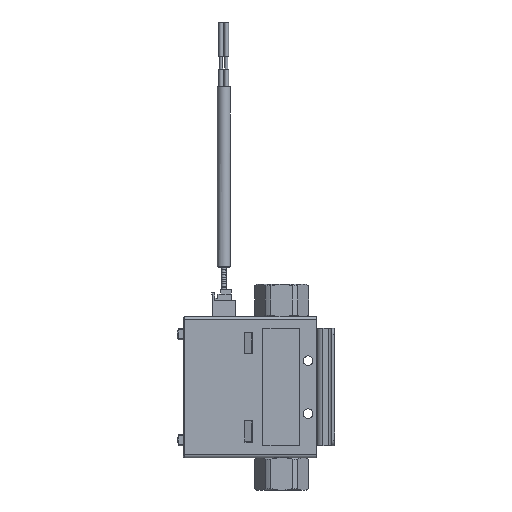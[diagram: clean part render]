
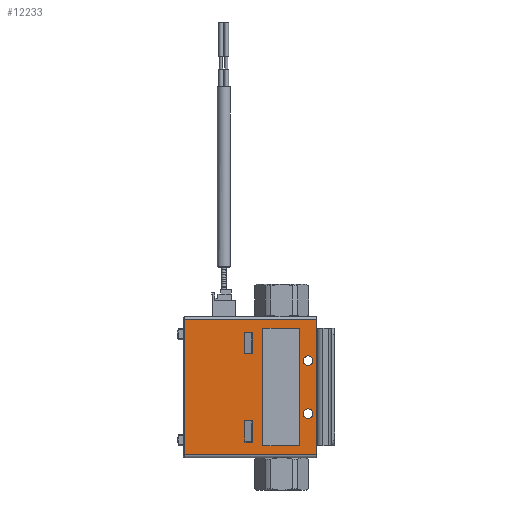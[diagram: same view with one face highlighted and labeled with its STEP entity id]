
A CAD part, left-side view. The second image highlights one B-rep face of the part: STEP entity #12233.
In plain terms, the highlighted planar face has unit normal (-1, 0, 0).
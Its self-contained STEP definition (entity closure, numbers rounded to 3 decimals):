
#682=LINE('',#65479,#4706);
#683=LINE('',#65482,#4707);
#684=LINE('',#65484,#4708);
#685=LINE('',#65486,#4709);
#686=LINE('',#65487,#4710);
#687=LINE('',#65490,#4711);
#688=LINE('',#65492,#4712);
#689=LINE('',#65494,#4713);
#690=LINE('',#65499,#4714);
#691=LINE('',#65502,#4715);
#692=LINE('',#65504,#4716);
#693=LINE('',#65506,#4717);
#694=LINE('',#65507,#4718);
#695=LINE('',#65510,#4719);
#696=LINE('',#65512,#4720);
#697=LINE('',#65514,#4721);
#4706=VECTOR('',#51932,1.);
#4707=VECTOR('',#51933,1.);
#4708=VECTOR('',#51934,1.);
#4709=VECTOR('',#51935,1.);
#4710=VECTOR('',#51936,1.);
#4711=VECTOR('',#51937,1.);
#4712=VECTOR('',#51938,1.);
#4713=VECTOR('',#51939,1.);
#4714=VECTOR('',#51944,1.);
#4715=VECTOR('',#51945,1.);
#4716=VECTOR('',#51946,1.);
#4717=VECTOR('',#51947,1.);
#4718=VECTOR('',#51948,1.);
#4719=VECTOR('',#51949,1.);
#4720=VECTOR('',#51950,1.);
#4721=VECTOR('',#51951,1.);
#10761=PLANE('',#46438);
#12233=ADVANCED_FACE('',(#15273,#15274,#15275,#15276,#15277,#15278),#10761,
 .T.);
#15273=FACE_BOUND('',#17185,.T.);
#15274=FACE_BOUND('',#17186,.T.);
#15275=FACE_BOUND('',#17187,.T.);
#15276=FACE_BOUND('',#17188,.T.);
#15277=FACE_BOUND('',#17189,.T.);
#15278=FACE_BOUND('',#17190,.T.);
#17185=EDGE_LOOP('',(#21799,#21800,#21801,#21802));
#17186=EDGE_LOOP('',(#21803,#21804,#21805,#21806));
#17187=EDGE_LOOP('',(#21807));
#17188=EDGE_LOOP('',(#21808));
#17189=EDGE_LOOP('',(#21809,#21810,#21811,#21812));
#17190=EDGE_LOOP('',(#21813,#21814,#21815,#21816));
#21799=ORIENTED_EDGE('',*,*,#38342,.F.);
#21800=ORIENTED_EDGE('',*,*,#38343,.F.);
#21801=ORIENTED_EDGE('',*,*,#38344,.F.);
#21802=ORIENTED_EDGE('',*,*,#38345,.F.);
#21803=ORIENTED_EDGE('',*,*,#38346,.T.);
#21804=ORIENTED_EDGE('',*,*,#38347,.T.);
#21805=ORIENTED_EDGE('',*,*,#38348,.T.);
#21806=ORIENTED_EDGE('',*,*,#38349,.T.);
#21807=ORIENTED_EDGE('',*,*,#38350,.T.);
#21808=ORIENTED_EDGE('',*,*,#38351,.T.);
#21809=ORIENTED_EDGE('',*,*,#38352,.T.);
#21810=ORIENTED_EDGE('',*,*,#38353,.T.);
#21811=ORIENTED_EDGE('',*,*,#38354,.T.);
#21812=ORIENTED_EDGE('',*,*,#38355,.F.);
#21813=ORIENTED_EDGE('',*,*,#38356,.T.);
#21814=ORIENTED_EDGE('',*,*,#38357,.F.);
#21815=ORIENTED_EDGE('',*,*,#38358,.F.);
#21816=ORIENTED_EDGE('',*,*,#38359,.T.);
#33765=VERTEX_POINT('',#65480);
#33766=VERTEX_POINT('',#65481);
#33767=VERTEX_POINT('',#65483);
#33768=VERTEX_POINT('',#65485);
#33769=VERTEX_POINT('',#65488);
#33770=VERTEX_POINT('',#65489);
#33771=VERTEX_POINT('',#65491);
#33772=VERTEX_POINT('',#65493);
#33773=VERTEX_POINT('',#65496);
#33774=VERTEX_POINT('',#65498);
#33775=VERTEX_POINT('',#65500);
#33776=VERTEX_POINT('',#65501);
#33777=VERTEX_POINT('',#65503);
#33778=VERTEX_POINT('',#65505);
#33779=VERTEX_POINT('',#65508);
#33780=VERTEX_POINT('',#65509);
#33781=VERTEX_POINT('',#65511);
#33782=VERTEX_POINT('',#65513);
#38342=EDGE_CURVE('',#33765,#33766,#682,.T.);
#38343=EDGE_CURVE('',#33767,#33765,#683,.T.);
#38344=EDGE_CURVE('',#33768,#33767,#684,.T.);
#38345=EDGE_CURVE('',#33766,#33768,#685,.T.);
#38346=EDGE_CURVE('',#33769,#33770,#686,.T.);
#38347=EDGE_CURVE('',#33770,#33771,#687,.T.);
#38348=EDGE_CURVE('',#33771,#33772,#688,.T.);
#38349=EDGE_CURVE('',#33772,#33769,#689,.T.);
#38350=EDGE_CURVE('',#33773,#33773,#44150,.T.);
#38351=EDGE_CURVE('',#33774,#33774,#44151,.T.);
#38352=EDGE_CURVE('',#33775,#33776,#690,.T.);
#38353=EDGE_CURVE('',#33776,#33777,#691,.T.);
#38354=EDGE_CURVE('',#33777,#33778,#692,.T.);
#38355=EDGE_CURVE('',#33775,#33778,#693,.T.);
#38356=EDGE_CURVE('',#33779,#33780,#694,.T.);
#38357=EDGE_CURVE('',#33781,#33780,#695,.T.);
#38358=EDGE_CURVE('',#33782,#33781,#696,.T.);
#38359=EDGE_CURVE('',#33782,#33779,#697,.T.);
#44150=CIRCLE('',#46436,1.65);
#44151=CIRCLE('',#46437,1.65);
#46436=AXIS2_PLACEMENT_3D('',#65495,#51940,#51941);
#46437=AXIS2_PLACEMENT_3D('',#65497,#51942,#51943);
#46438=AXIS2_PLACEMENT_3D('',#65515,#51952,#51953);
#51932=DIRECTION('',(0.,-1.,0.));
#51933=DIRECTION('',(0.,0.,-1.));
#51934=DIRECTION('',(0.,1.,0.));
#51935=DIRECTION('',(0.,0.,1.));
#51936=DIRECTION('',(0.,1.,0.));
#51937=DIRECTION('',(0.,0.,-1.));
#51938=DIRECTION('',(0.,-1.,0.));
#51939=DIRECTION('',(0.,0.,1.));
#51940=DIRECTION('',(1.,0.,0.));
#51941=DIRECTION('',(0.,0.,-1.));
#51942=DIRECTION('',(1.,0.,0.));
#51943=DIRECTION('',(0.,0.,-1.));
#51944=DIRECTION('',(0.,0.,1.));
#51945=DIRECTION('',(0.,-1.,0.));
#51946=DIRECTION('',(0.,0.,-1.));
#51947=DIRECTION('',(0.,-1.,0.));
#51948=DIRECTION('',(0.,1.,0.));
#51949=DIRECTION('',(0.,0.,-1.));
#51950=DIRECTION('',(0.,1.,0.));
#51951=DIRECTION('',(0.,0.,-1.));
#51952=DIRECTION('',(-1.,0.,0.));
#51953=DIRECTION('',(0.,0.,1.));
#65479=CARTESIAN_POINT('',(17.5,7.919,-57.5));
#65480=CARTESIAN_POINT('',(17.5,7.419,-57.5));
#65481=CARTESIAN_POINT('',(17.5,-5.081,-57.5));
#65482=CARTESIAN_POINT('',(17.5,7.419,0.));
#65483=CARTESIAN_POINT('',(17.5,7.419,-17.5));
#65484=CARTESIAN_POINT('',(17.5,-12.081,-17.5));
#65485=CARTESIAN_POINT('',(17.5,-5.081,-17.5));
#65486=CARTESIAN_POINT('',(17.5,-5.081,-77.5));
#65487=CARTESIAN_POINT('',(17.5,14.419,-14.5));
#65488=CARTESIAN_POINT('',(17.5,-11.,-14.5));
#65489=CARTESIAN_POINT('',(17.5,33.99,-14.5));
#65490=CARTESIAN_POINT('',(17.5,33.99,-60.5));
#65491=CARTESIAN_POINT('',(17.5,33.99,-60.5));
#65492=CARTESIAN_POINT('',(17.5,14.419,-60.5));
#65493=CARTESIAN_POINT('',(17.5,-11.,-60.5));
#65494=CARTESIAN_POINT('',(17.5,-11.,0.));
#65495=CARTESIAN_POINT('',(17.5,-8.,-46.5));
#65496=CARTESIAN_POINT('',(17.5,-8.,-48.15));
#65497=CARTESIAN_POINT('',(17.5,-8.,-28.5));
#65498=CARTESIAN_POINT('',(17.5,-8.,-30.15));
#65499=CARTESIAN_POINT('',(17.5,13.5,-60.5));
#65500=CARTESIAN_POINT('',(17.5,13.5,-56.2));
#65501=CARTESIAN_POINT('',(17.5,13.5,-48.8));
#65502=CARTESIAN_POINT('',(17.5,36.6,-48.8));
#65503=CARTESIAN_POINT('',(17.5,10.95,-48.8));
#65504=CARTESIAN_POINT('',(17.5,10.95,-36.5));
#65505=CARTESIAN_POINT('',(17.5,10.95,-56.2));
#65506=CARTESIAN_POINT('',(17.5,36.6,-56.2));
#65507=CARTESIAN_POINT('',(17.5,36.6,-26.2));
#65508=CARTESIAN_POINT('',(17.5,10.95,-26.2));
#65509=CARTESIAN_POINT('',(17.5,13.5,-26.2));
#65510=CARTESIAN_POINT('',(17.5,13.5,-60.5));
#65511=CARTESIAN_POINT('',(17.5,13.5,-18.8));
#65512=CARTESIAN_POINT('',(17.5,36.6,-18.8));
#65513=CARTESIAN_POINT('',(17.5,10.95,-18.8));
#65514=CARTESIAN_POINT('',(17.5,10.95,-49.5));
#65515=CARTESIAN_POINT('',(17.5,14.419,0.));
